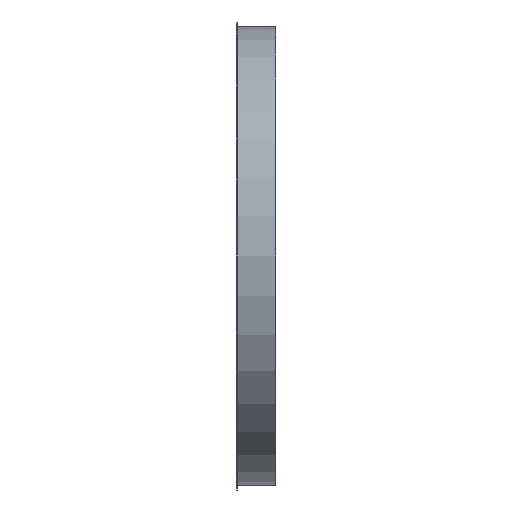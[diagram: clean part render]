
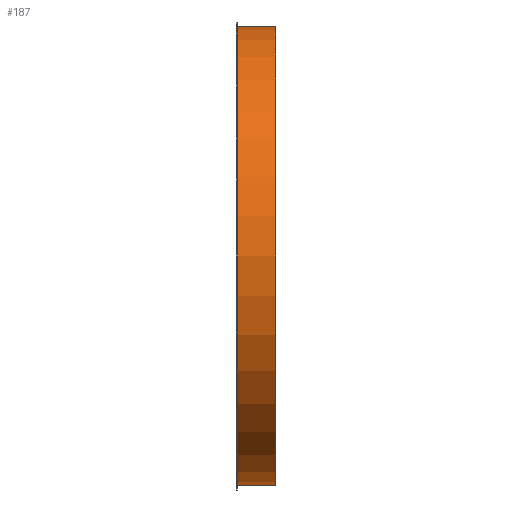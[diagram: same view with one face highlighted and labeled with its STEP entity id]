
A CAD part, front view. The second image highlights one B-rep face of the part: STEP entity #187.
In plain terms, the highlighted cylindrical face has radius 316 mm (diameter 632 mm), a full revolution.
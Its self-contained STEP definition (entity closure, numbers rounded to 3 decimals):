
#112=CARTESIAN_POINT('',(-15.,0.,0.0));
#113=VERTEX_POINT('',#112);
#114=CARTESIAN_POINT('',(-15.,316.0,0.0));
#115=DIRECTION('',(-1.0,0.0,0.0));
#116=DIRECTION('',(0.0,-1.0,0.0));
#117=AXIS2_PLACEMENT_3D('',#114,#115,#116);
#118=CIRCLE('',#117,316.0);
#119=EDGE_CURVE('',#113,#113,#118,.T.);
#161=CARTESIAN_POINT('',(38.0,0.,0.0));
#162=VERTEX_POINT('',#161);
#163=CARTESIAN_POINT('',(38.0,316.0,0.0));
#164=DIRECTION('',(-1.0,0.0,0.0));
#165=DIRECTION('',(0.0,-1.0,0.0));
#166=AXIS2_PLACEMENT_3D('',#163,#164,#165);
#167=CIRCLE('',#166,316.0);
#168=EDGE_CURVE('',#162,#162,#167,.T.);
#176=CARTESIAN_POINT('',(11.5,316.0,0.0));
#177=DIRECTION('',(-1.0,0.0,0.0));
#178=DIRECTION('',(0.0,-1.0,0.0));
#179=AXIS2_PLACEMENT_3D('',#176,#177,#178);
#180=CYLINDRICAL_SURFACE('',#179,316.0);
#181=ORIENTED_EDGE('',*,*,#119,.F.);
#182=EDGE_LOOP('',(#181));
#183=FACE_OUTER_BOUND('',#182,.T.);
#184=ORIENTED_EDGE('',*,*,#168,.T.);
#185=EDGE_LOOP('',(#184));
#186=FACE_BOUND('',#185,.T.);
#187=ADVANCED_FACE('',(#183,#186),#180,.T.);
